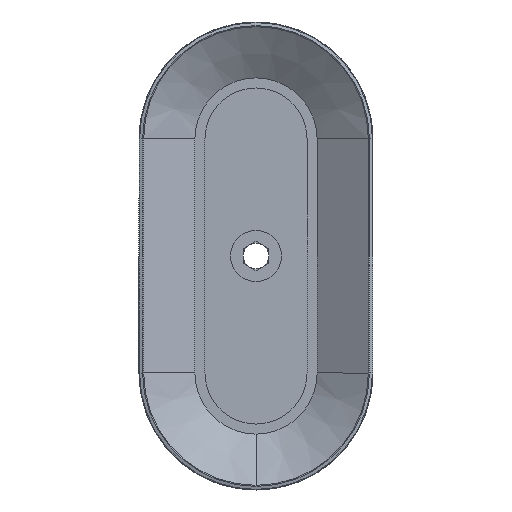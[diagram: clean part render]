
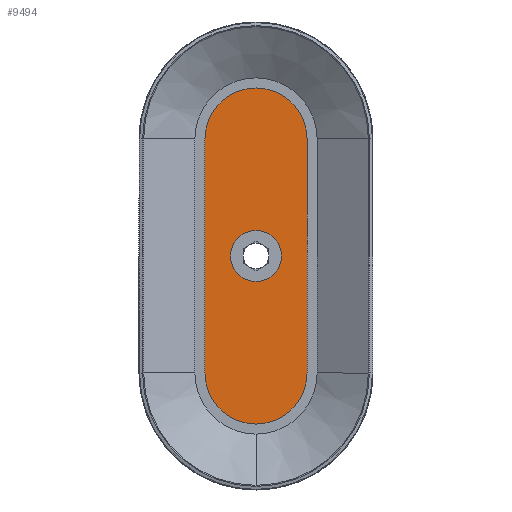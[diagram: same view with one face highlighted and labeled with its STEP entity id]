
A CAD part, front view. The second image highlights one B-rep face of the part: STEP entity #9494.
In plain terms, the highlighted planar face has unit normal (0, -1, 0).
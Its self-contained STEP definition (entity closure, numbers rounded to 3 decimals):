
#63 = CARTESIAN_POINT ( 'NONE',  ( 0., 13., 0. ) ) ;
#114 = LINE ( 'NONE', #8038, #1473 ) ;
#163 = ORIENTED_EDGE ( 'NONE', *, *, #11861, .F. ) ;
#196 = CIRCLE ( 'NONE', #6925, 12. ) ;
#479 = VERTEX_POINT ( 'NONE', #13015 ) ;
#752 = EDGE_CURVE ( 'NONE', #9922, #2814, #8338, .T. ) ;
#956 = DIRECTION ( 'NONE',  ( 0., 0., 1. ) ) ;
#1002 = VERTEX_POINT ( 'NONE', #5395 ) ;
#1302 = CARTESIAN_POINT ( 'NONE',  ( 0., 13., 27.5 ) ) ;
#1473 = VECTOR ( 'NONE', #5042, 1000. ) ;
#1563 = VERTEX_POINT ( 'NONE', #9188 ) ;
#1682 = DIRECTION ( 'NONE',  ( 0., 0., 1. ) ) ;
#1757 = EDGE_CURVE ( 'NONE', #1563, #4182, #114, .T. ) ;
#1760 = DIRECTION ( 'NONE',  ( 0., 0., 1. ) ) ;
#1765 = CIRCLE ( 'NONE', #9357, 12. ) ;
#1872 = ORIENTED_EDGE ( 'NONE', *, *, #752, .F. ) ;
#1880 = CARTESIAN_POINT ( 'NONE',  ( -12., 13., 27.5 ) ) ;
#1898 = CARTESIAN_POINT ( 'NONE',  ( -0.5, 13., 27.5 ) ) ;
#2479 = ORIENTED_EDGE ( 'NONE', *, *, #11330, .T. ) ;
#2650 = EDGE_LOOP ( 'NONE', ( #3048, #11520, #163, #1872, #8256 ) ) ;
#2664 = CARTESIAN_POINT ( 'NONE',  ( 0., 13., 27.5 ) ) ;
#2734 = CIRCLE ( 'NONE', #3794, 6. ) ;
#2814 = VERTEX_POINT ( 'NONE', #2827 ) ;
#2827 = CARTESIAN_POINT ( 'NONE',  ( 0., 13., 39.5 ) ) ;
#3048 = ORIENTED_EDGE ( 'NONE', *, *, #9694, .F. ) ;
#3134 = AXIS2_PLACEMENT_3D ( 'NONE', #63, #12273, #3156 ) ;
#3156 = DIRECTION ( 'NONE',  ( -1., 0., 0. ) ) ;
#3224 = VECTOR ( 'NONE', #10825, 1000. ) ;
#3664 = EDGE_LOOP ( 'NONE', ( #2479, #4994 ) ) ;
#3794 = AXIS2_PLACEMENT_3D ( 'NONE', #7370, #10496, #8564 ) ;
#4182 = VERTEX_POINT ( 'NONE', #10527 ) ;
#4247 = CARTESIAN_POINT ( 'NONE',  ( 0., 13., -27.5 ) ) ;
#4994 = ORIENTED_EDGE ( 'NONE', *, *, #11461, .T. ) ;
#5042 = DIRECTION ( 'NONE',  ( 0., 0., -1. ) ) ;
#5395 = CARTESIAN_POINT ( 'NONE',  ( -6., 13., 0. ) ) ;
#5579 = FACE_BOUND ( 'NONE', #3664, .T. ) ;
#6646 = PLANE ( 'NONE',  #10622 ) ;
#6689 = DIRECTION ( 'NONE',  ( 0., 1., 0. ) ) ;
#6925 = AXIS2_PLACEMENT_3D ( 'NONE', #2664, #6689, #1682 ) ;
#7280 = AXIS2_PLACEMENT_3D ( 'NONE', #1302, #7641, #956 ) ;
#7370 = CARTESIAN_POINT ( 'NONE',  ( 0., 13., 0. ) ) ;
#7632 = CARTESIAN_POINT ( 'NONE',  ( -12., 13., 27.5 ) ) ;
#7641 = DIRECTION ( 'NONE',  ( 0., 1., 0. ) ) ;
#7707 = FACE_OUTER_BOUND ( 'NONE', #2650, .T. ) ;
#8021 = VERTEX_POINT ( 'NONE', #11384 ) ;
#8038 = CARTESIAN_POINT ( 'NONE',  ( 12., 13., 27.5 ) ) ;
#8256 = ORIENTED_EDGE ( 'NONE', *, *, #9341, .F. ) ;
#8338 = CIRCLE ( 'NONE', #7280, 12. ) ;
#8564 = DIRECTION ( 'NONE',  ( -1., 0., 0. ) ) ;
#8702 = LINE ( 'NONE', #7632, #3224 ) ;
#9188 = CARTESIAN_POINT ( 'NONE',  ( 12., 13., 27.5 ) ) ;
#9341 = EDGE_CURVE ( 'NONE', #479, #9922, #8702, .T. ) ;
#9357 = AXIS2_PLACEMENT_3D ( 'NONE', #4247, #10807, #1760 ) ;
#9494 = ADVANCED_FACE ( 'NONE', ( #7707, #5579 ), #6646, .F. ) ;
#9694 = EDGE_CURVE ( 'NONE', #4182, #479, #1765, .T. ) ;
#9922 = VERTEX_POINT ( 'NONE', #1880 ) ;
#10496 = DIRECTION ( 'NONE',  ( 0., 1., 0. ) ) ;
#10527 = CARTESIAN_POINT ( 'NONE',  ( 12., 13., -27.5 ) ) ;
#10622 = AXIS2_PLACEMENT_3D ( 'NONE', #1898, #11023, #11156 ) ;
#10807 = DIRECTION ( 'NONE',  ( 0., 1., 0. ) ) ;
#10825 = DIRECTION ( 'NONE',  ( 0., 0., 1. ) ) ;
#11023 = DIRECTION ( 'NONE',  ( 0., 1., 0. ) ) ;
#11156 = DIRECTION ( 'NONE',  ( 0., 0., 1. ) ) ;
#11330 = EDGE_CURVE ( 'NONE', #1002, #8021, #13052, .T. ) ;
#11384 = CARTESIAN_POINT ( 'NONE',  ( 6., 13., 0. ) ) ;
#11461 = EDGE_CURVE ( 'NONE', #8021, #1002, #2734, .T. ) ;
#11520 = ORIENTED_EDGE ( 'NONE', *, *, #1757, .F. ) ;
#11861 = EDGE_CURVE ( 'NONE', #2814, #1563, #196, .T. ) ;
#12273 = DIRECTION ( 'NONE',  ( 0., 1., 0. ) ) ;
#13015 = CARTESIAN_POINT ( 'NONE',  ( -12., 13., -27.5 ) ) ;
#13052 = CIRCLE ( 'NONE', #3134, 6. ) ;
